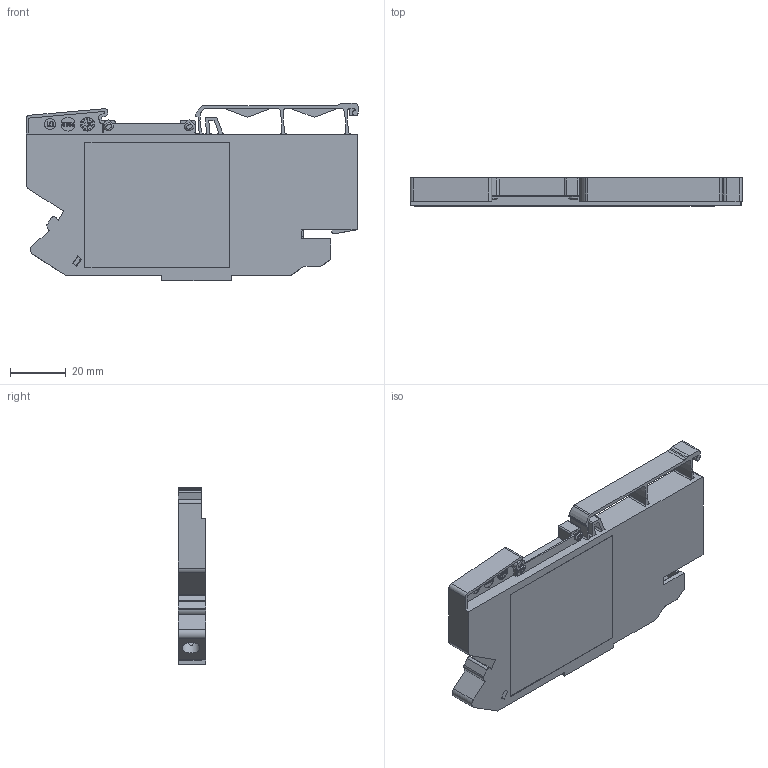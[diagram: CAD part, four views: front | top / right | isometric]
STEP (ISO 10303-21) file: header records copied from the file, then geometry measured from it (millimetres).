
FILE_DESCRIPTION(/* description */ (''),/* implementation_level */ '2;1');
FILE_NAME(/* name */ 'C:\Users\Maryon.Wieland\Desktop\transfer\L71-084-6494F-KV_00.stp',/* time_stamp */ '2015-03-05T07:53:48+01:00',/* author */ ('Maryon.Bubeck'),/* organization */ (''),/* preprocessor_version */ 'ST-DEVELOPER v15.2',/* originating_system */ 'Autodesk Inventor 2014',/* authorisation */ '');
FILE_SCHEMA (('AUTOMOTIVE_DESIGN { 1 0 10303 214 3 1 1 }'));
Products named in the file (1): L71-084-6494F-KV_00
Bounding box: 119.35 x 10 x 63.7 mm (x, y, z)
Volume: 30837.8 mm3; surface area: 43375.4 mm2
Topology: 1 solids, 40 shells, 3052 faces, 8674 edges, 5719 vertices
Faces by surface type: plane 2518, cylinder 319, cone 111, torus 54, bspline 49, sphere 1
Full cylindrical faces by diameter (mm): 1.55 x4, 1.9 x4, 2 x2, 2.25 x1, 4 x2, 4.2 x13, 5 x4
Entity records: 111342 total; most frequent: CARTESIAN_POINT 30023, ORIENTED_EDGE 16854, DIRECTION 14912, EDGE_CURVE 8422, LINE 7166, VECTOR 7166, VERTEX_POINT 5642, AXIS2_PLACEMENT_3D 3873
